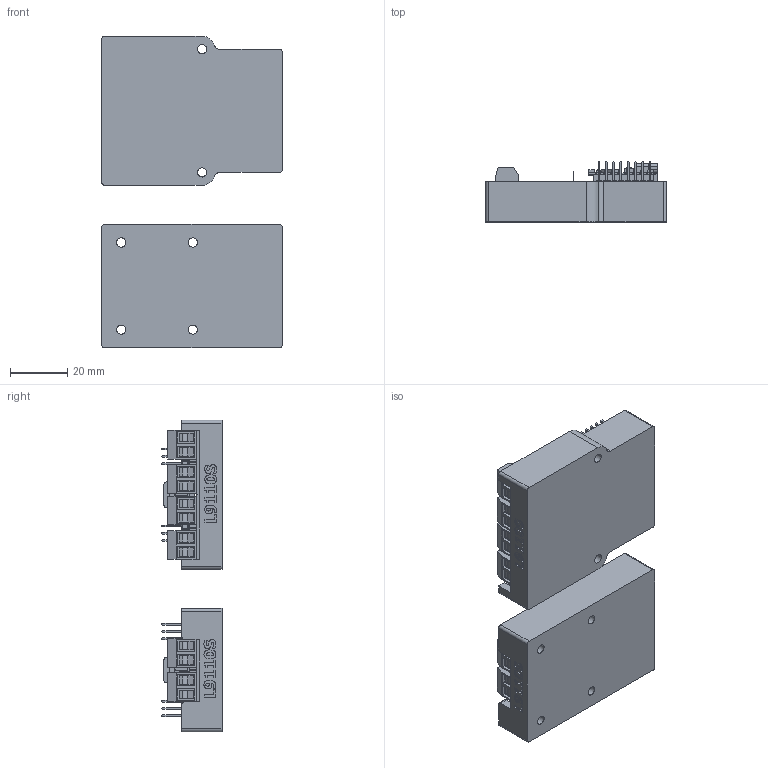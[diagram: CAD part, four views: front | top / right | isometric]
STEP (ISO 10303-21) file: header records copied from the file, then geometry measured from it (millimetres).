
FILE_DESCRIPTION(/* description */ (''),/* implementation_level */ '2;1');
FILE_NAME(/* name */ 'Assieme_c3_2x.stp',/* time_stamp */ '2025-05-15T19:22:42+02:00',/* author */ ('R5800u'),/* organization */ (''),/* preprocessor_version */ 'ST-DEVELOPER v20',/* originating_system */ 'Autodesk Inventor 2025',/* authorisation */ '');
FILE_SCHEMA (('AUTOMOTIVE_DESIGN { 1 0 10303 214 3 1 1 }'));
Products named in the file (68): Assieme_c3_2x; frame2x; Assieme_c3; L9110S 모터 드라이버; Assembly; pcb; JST - PH - SMD (R) - 2Pin - 2.00mm; pinheaderyellow; COMPOUND; COMPOUND_1; COMPOUND_2; COMPOUND_3; COMPOUND_4; COMPOUND_5; COMPOUND_6; COMPOUND_7; COMPOUND_8; COMPOUND_9; COMPOUND_10; COMPOUND_11; COMPOUND_12; COMPOUND_13; COMPOUND_14; COMPOUND_15; COMPOUND_16; COMPOUND_17; pinheader8Red; COMPOUND_18; COMPOUND_19; COMPOUND_20; COMPOUND_21; COMPOUND_22; COMPOUND_23; COMPOUND_24; COMPOUND_25; COMPOUND_26; COMPOUND_27; COMPOUND_28; COMPOUND_29; COMPOUND_30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
Assembly tree (83 placements, depth 6):
  Assieme_c3_2x
    Assembly
      pcb
      pinheaderyellow  x2
        COMPOUND
          COMPOUND_1
          COMPOUND_2
          COMPOUND_3
          COMPOUND_4
          COMPOUND_5
          COMPOUND_6
          COMPOUND_7
          COMPOUND_8
        COMPOUND_9
          COMPOUND_10
          COMPOUND_11
          COMPOUND_12
          COMPOUND_13
          COMPOUND_14
          COMPOUND_15
          COMPOUND_16
          COMPOUND_17
      pinheader8Red  x2
        COMPOUND_18
          COMPOUND_19
          COMPOUND_20
          COMPOUND_21
          COMPOUND_22
          COMPOUND_23
          COMPOUND_24
          COMPOUND_25
          COMPOUND_26
        COMPOUND_27
          COMPOUND_28
          COMPOUND_29
          COMPOUND_30
          COMPOUND_31
          COMPOUND_32
          COMPOUND_33
          COMPOUND_34
          COMPOUND_35
      pinheader8Black  x2
        COMPOUND_36
          COMPOUND_37
          COMPOUND_38
          COMPOUND_39
          COMPOUND_40
          COMPOUND_41
          COMPOUND_42
          COMPOUND_43
          COMPOUND_44
        COMPOUND_45
          COMPOUND_46
          COMPOUND_47
          COMPOUND_48
          COMPOUND_49
          COMPOUND_50
          COMPOUND_51
          COMPOUND_52
          COMPOUND_53
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Bounding box: 63 x 20.94 x 108.63 mm (x, y, z)
Volume: 62619.6 mm3; surface area: 48374 mm2
Topology: 152 solids, 288 shells, 7751 faces, 19581 edges, 12518 vertices
Faces by surface type: plane 6954, cylinder 576, bspline 186, sphere 18, cone 17
Full cylindrical faces by diameter (mm): 0.7 x128, 1.1 x32, 1.7 x4, 1.854 x9, 2 x6, 2.1 x4, 2.5 x8, 2.997 x9, 3 x24, 3.2 x6
Entity records: 84449 total; most frequent: CARTESIAN_POINT 16326, ORIENTED_EDGE 13324, DIRECTION 12416, EDGE_CURVE 6746, LINE 5830, VECTOR 5830, VERTEX_POINT 4324, AXIS2_PLACEMENT_3D 3293
